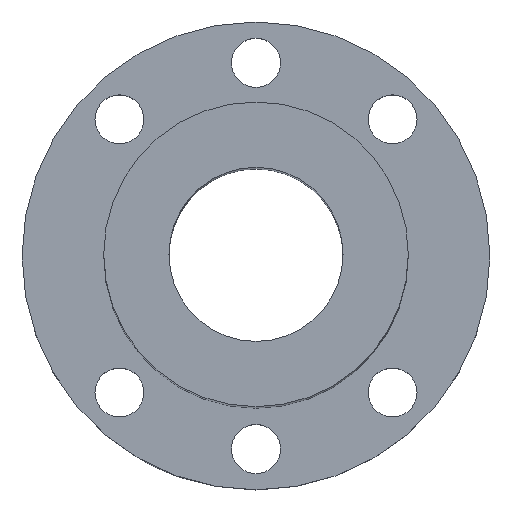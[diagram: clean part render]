
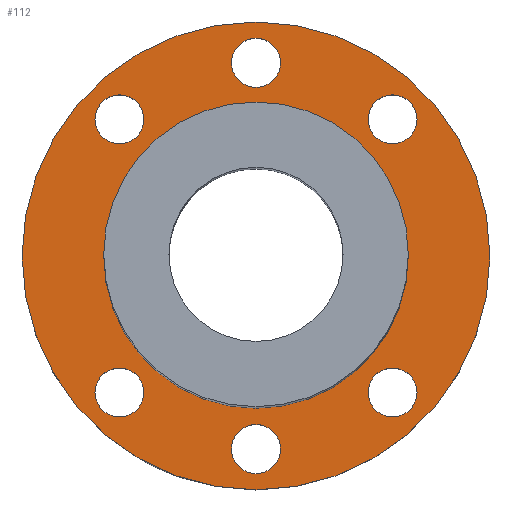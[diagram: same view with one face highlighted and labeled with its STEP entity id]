
A CAD part, top view. The second image highlights one B-rep face of the part: STEP entity #112.
In plain terms, the highlighted planar face has unit normal (0, 0, 1).
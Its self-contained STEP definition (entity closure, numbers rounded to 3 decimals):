
#99=PLANE('',#355);
#112=ADVANCED_FACE('',(#159,#160,#161,#162,#163,#164,#165,#166),#99,.T.);
#159=FACE_BOUND('',#203,.T.);
#160=FACE_BOUND('',#204,.T.);
#161=FACE_BOUND('',#205,.T.);
#162=FACE_BOUND('',#206,.T.);
#163=FACE_BOUND('',#207,.T.);
#164=FACE_BOUND('',#208,.T.);
#165=FACE_BOUND('',#209,.T.);
#166=FACE_BOUND('',#210,.T.);
#203=EDGE_LOOP('',(#247));
#204=EDGE_LOOP('',(#248));
#205=EDGE_LOOP('',(#249));
#206=EDGE_LOOP('',(#250));
#207=EDGE_LOOP('',(#251));
#208=EDGE_LOOP('',(#252));
#209=EDGE_LOOP('',(#253));
#210=EDGE_LOOP('',(#254));
#247=ORIENTED_EDGE('',*,*,#284,.T.);
#248=ORIENTED_EDGE('',*,*,#301,.F.);
#249=ORIENTED_EDGE('',*,*,#286,.T.);
#250=ORIENTED_EDGE('',*,*,#300,.T.);
#251=ORIENTED_EDGE('',*,*,#299,.F.);
#252=ORIENTED_EDGE('',*,*,#298,.F.);
#253=ORIENTED_EDGE('',*,*,#297,.T.);
#254=ORIENTED_EDGE('',*,*,#302,.T.);
#262=VERTEX_POINT('',#437);
#264=VERTEX_POINT('',#499);
#275=VERTEX_POINT('',#582);
#276=VERTEX_POINT('',#585);
#277=VERTEX_POINT('',#588);
#278=VERTEX_POINT('',#591);
#279=VERTEX_POINT('',#594);
#280=VERTEX_POINT('',#597);
#284=EDGE_CURVE('',#262,#262,#306,.T.);
#286=EDGE_CURVE('',#264,#264,#307,.T.);
#297=EDGE_CURVE('',#275,#275,#317,.T.);
#298=EDGE_CURVE('',#276,#276,#318,.T.);
#299=EDGE_CURVE('',#277,#277,#319,.T.);
#300=EDGE_CURVE('',#278,#278,#320,.T.);
#301=EDGE_CURVE('',#279,#279,#321,.T.);
#302=EDGE_CURVE('',#280,#280,#322,.T.);
#306=CIRCLE('',#327,43.);
#307=CIRCLE('',#329,28.);
#317=CIRCLE('',#343,4.5);
#318=CIRCLE('',#345,4.5);
#319=CIRCLE('',#347,4.5);
#320=CIRCLE('',#349,4.5);
#321=CIRCLE('',#351,4.5);
#322=CIRCLE('',#353,4.5);
#327=AXIS2_PLACEMENT_3D('',#436,#365,#366);
#329=AXIS2_PLACEMENT_3D('',#498,#369,#370);
#343=AXIS2_PLACEMENT_3D('',#581,#397,#398);
#345=AXIS2_PLACEMENT_3D('',#584,#401,#402);
#347=AXIS2_PLACEMENT_3D('',#587,#405,#406);
#349=AXIS2_PLACEMENT_3D('',#590,#409,#410);
#351=AXIS2_PLACEMENT_3D('',#593,#413,#414);
#353=AXIS2_PLACEMENT_3D('',#596,#417,#418);
#355=AXIS2_PLACEMENT_3D('',#599,#421,#422);
#365=DIRECTION('',(0.,0.,1.));
#366=DIRECTION('',(1.,0.,0.));
#369=DIRECTION('',(0.,0.,-1.));
#370=DIRECTION('',(1.,0.,0.));
#397=DIRECTION('',(0.,0.,-1.));
#398=DIRECTION('',(-1.,0.,0.));
#401=DIRECTION('',(0.,0.,1.));
#402=DIRECTION('',(1.,0.,0.));
#405=DIRECTION('',(0.,0.,1.));
#406=DIRECTION('',(1.,0.,0.));
#409=DIRECTION('',(0.,0.,-1.));
#410=DIRECTION('',(1.,0.,0.));
#413=DIRECTION('',(0.,0.,1.));
#414=DIRECTION('',(-1.,0.,0.));
#417=DIRECTION('',(0.,0.,-1.));
#418=DIRECTION('',(1.,0.,0.));
#421=DIRECTION('',(0.,0.,1.));
#422=DIRECTION('',(1.,0.,0.));
#436=CARTESIAN_POINT('',(0.,0.,14.));
#437=CARTESIAN_POINT('',(43.,0.,14.));
#498=CARTESIAN_POINT('',(0.,0.,14.));
#499=CARTESIAN_POINT('',(28.,0.,14.));
#581=CARTESIAN_POINT('',(25.102,25.102,14.));
#582=CARTESIAN_POINT('',(20.602,25.102,14.));
#584=CARTESIAN_POINT('',(0.,35.5,14.));
#585=CARTESIAN_POINT('',(4.5,35.5,14.));
#587=CARTESIAN_POINT('',(-25.102,25.102,14.));
#588=CARTESIAN_POINT('',(-20.602,25.102,14.));
#590=CARTESIAN_POINT('',(0.,-35.5,14.));
#591=CARTESIAN_POINT('',(4.5,-35.5,14.));
#593=CARTESIAN_POINT('',(25.102,-25.102,14.));
#594=CARTESIAN_POINT('',(20.602,-25.102,14.));
#596=CARTESIAN_POINT('',(-25.102,-25.102,14.));
#597=CARTESIAN_POINT('',(-20.602,-25.102,14.));
#599=CARTESIAN_POINT('',(12.551,-12.551,14.));
